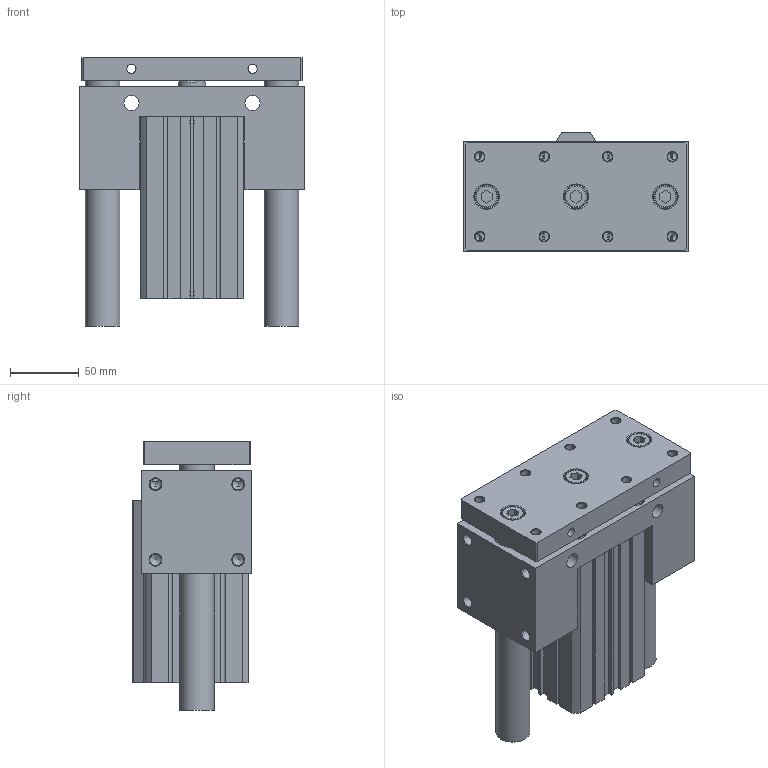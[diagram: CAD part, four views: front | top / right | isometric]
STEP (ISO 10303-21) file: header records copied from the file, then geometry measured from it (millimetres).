
FILE_DESCRIPTION((''),'2;1');
FILE_NAME('I:\3D電子目錄\氣缸\JCB\JCB\JCB63\JCB63x100.stp','2007-09-01T15:20:28',('Administrator'),(''),'Autodesk Inventor 11','Autodesk Inventor 11','');
FILE_SCHEMA(('AUTOMOTIVE_DESIGN { 1 0 10303 214 1 1 1 1 }'));
Length unit declared in the file: millimetre
Products named in the file (1): JCB63
Bounding box: 164 x 87 x 195.5 mm (x, y, z)
Volume: 1612954.5 mm3; surface area: 237746.3 mm2
Topology: 3 solids, 5 shells, 343 faces, 829 edges, 538 vertices
Faces by surface type: plane 186, cylinder 62, cone 47, bspline 40, torus 8
Full cylindrical faces by diameter (mm): 3 x2, 6.8 x4, 8.376 x4, 11 x8, 13 x4, 14 x4, 16 x3, 17.5 x3, 20 x1, 21 x1, 25 x2, 28 x2, 40 x1, 47 x1, 65 x4, 68 x2
Entity records: 10008 total; most frequent: CARTESIAN_POINT 2670, DIRECTION 1474, ORIENTED_EDGE 1320, EDGE_CURVE 660, EDGE_LOOP 554, AXIS2_PLACEMENT_3D 532, VERTEX_POINT 498, VECTOR 410
